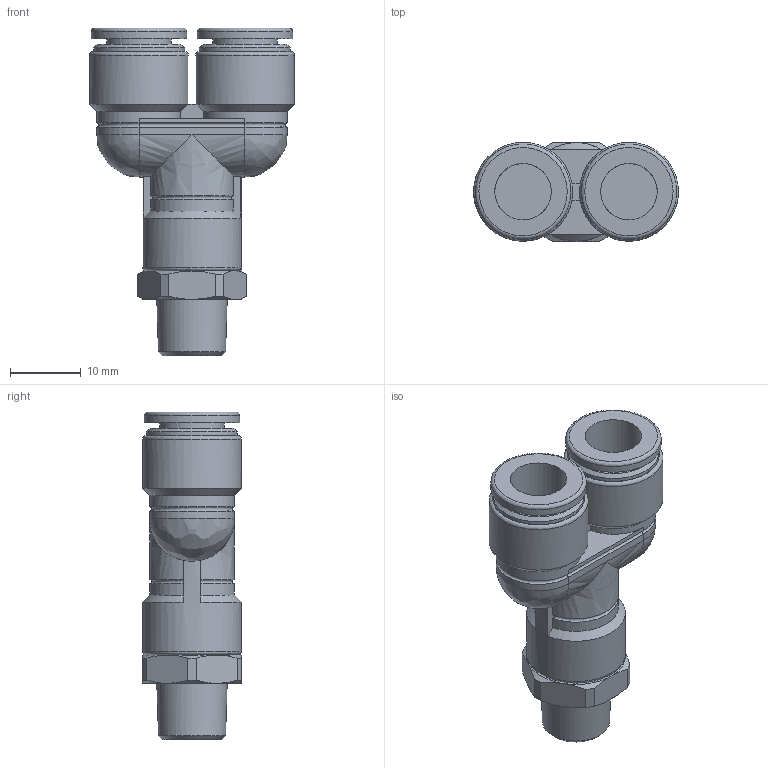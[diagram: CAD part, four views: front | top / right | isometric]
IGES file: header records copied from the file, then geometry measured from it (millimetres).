
Global section: file name: [08] FS8-01MY FS8-01MYW; native system: Autodesk Inventor 2014; preprocessor: unknown; author: kazuhiro.t; date: 20130806.165648; units: millimetre
Bounding box: 29 x 14 x 46.4 mm (x, y, z)
Volume: 7397.4 mm3; surface area: 4252.7 mm2
Topology: 1 solids, 1 shells, 92 faces, 212 edges, 128 vertices
Faces by surface type: bspline 92
